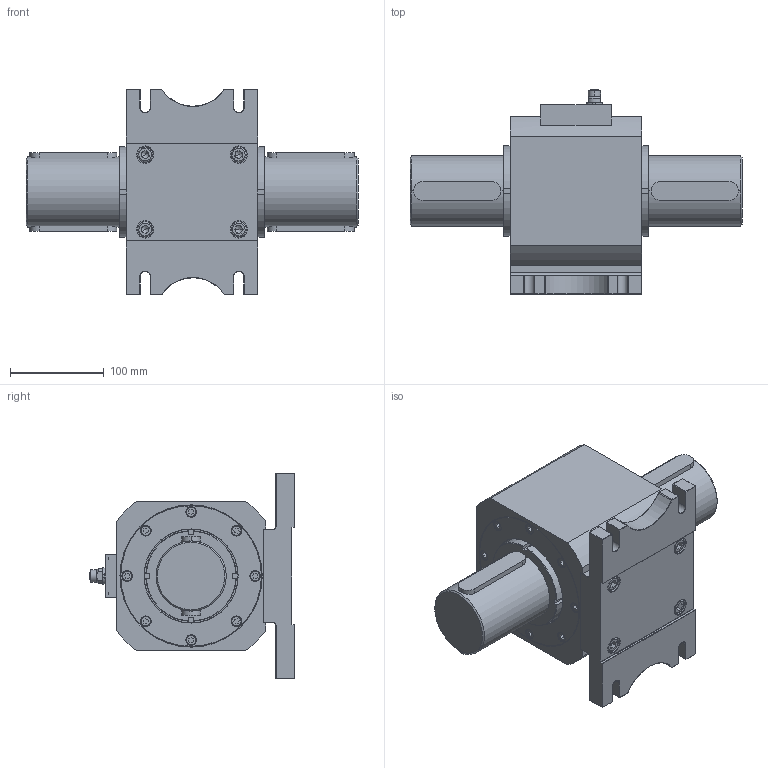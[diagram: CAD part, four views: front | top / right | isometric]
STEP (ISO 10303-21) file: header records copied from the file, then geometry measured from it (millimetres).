
FILE_DESCRIPTION (( 'STEP AP203' ), '1' );
FILE_NAME ('RTS03-3000NM.STEP', '2026-05-28T14:35:08', ( '' ), ( '' ), 'SwSTEP 2.0', 'SolidWorks 2019', '' );
FILE_SCHEMA (( 'CONFIG_CONTROL_DESIGN' ));
Length unit declared in the file: millimetre
Products named in the file (1): RTS03-3000NM
Bounding box: 355 x 219.1 x 220 mm (x, y, z)
Volume: 5128139 mm3; surface area: 388262.2 mm2
Topology: 9 solids, 9 shells, 946 faces, 2307 edges, 1441 vertices
Faces by surface type: plane 479, cylinder 321, cone 113, bspline 20, torus 12, sphere 1
Entity records: 41191 total; most frequent: CARTESIAN_POINT 19625, ORIENTED_EDGE 4576, DIRECTION 4331, EDGE_CURVE 2288, AXIS2_PLACEMENT_3D 1499, VERTEX_POINT 1439, VECTOR 1333, LINE 1333
